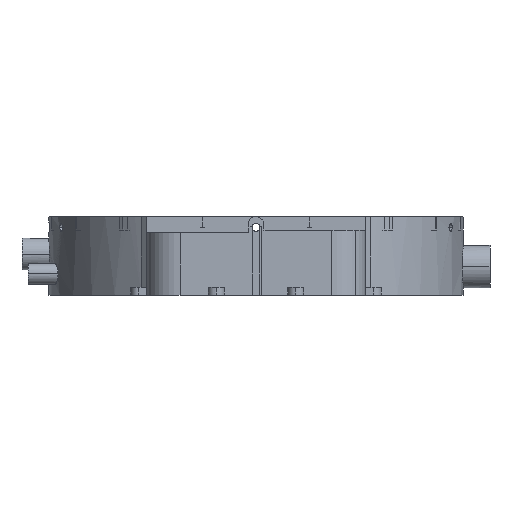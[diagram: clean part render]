
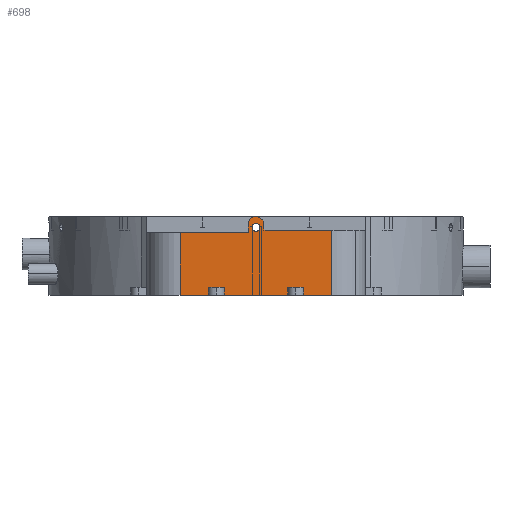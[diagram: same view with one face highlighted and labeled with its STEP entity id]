
A CAD part, left-side view. The second image highlights one B-rep face of the part: STEP entity #698.
In plain terms, the highlighted planar face has unit normal (-1, 0, 0).
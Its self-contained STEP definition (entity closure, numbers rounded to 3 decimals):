
#698=ADVANCED_FACE('',(#2062,#2063),#2064,.T.);
#2062=FACE_BOUND('',#4261,.T.);
#2063=FACE_OUTER_BOUND('',#4262,.T.);
#2064=PLANE('',#4263);
#4261=EDGE_LOOP('',(#6454,#6455));
#4262=EDGE_LOOP('',(#6456,#6457,#6458,#6459,#6460,#6461,#6462,#6463,#6464,#6465,#6466,#6467,#6468,#6469,#6470,#6471,#6472));
#4263=AXIS2_PLACEMENT_3D('',#6473,#6474,#6475);
#6454=ORIENTED_EDGE('',*,*,#13221,.T.);
#6455=ORIENTED_EDGE('',*,*,#13222,.T.);
#6456=ORIENTED_EDGE('',*,*,#13223,.F.);
#6457=ORIENTED_EDGE('',*,*,#13224,.T.);
#6458=ORIENTED_EDGE('',*,*,#13225,.T.);
#6459=ORIENTED_EDGE('',*,*,#13226,.F.);
#6460=ORIENTED_EDGE('',*,*,#13227,.T.);
#6461=ORIENTED_EDGE('',*,*,#13228,.T.);
#6462=ORIENTED_EDGE('',*,*,#13229,.F.);
#6463=ORIENTED_EDGE('',*,*,#13230,.F.);
#6464=ORIENTED_EDGE('',*,*,#13231,.T.);
#6465=ORIENTED_EDGE('',*,*,#13232,.T.);
#6466=ORIENTED_EDGE('',*,*,#13233,.T.);
#6467=ORIENTED_EDGE('',*,*,#13234,.F.);
#6468=ORIENTED_EDGE('',*,*,#13235,.T.);
#6469=ORIENTED_EDGE('',*,*,#13236,.T.);
#6470=ORIENTED_EDGE('',*,*,#13237,.T.);
#6471=ORIENTED_EDGE('',*,*,#13238,.T.);
#6472=ORIENTED_EDGE('',*,*,#13239,.F.);
#6473=CARTESIAN_POINT('',(-162.0,0.,0.));
#6474=DIRECTION('',(-1.0,0.,0.));
#6475=DIRECTION('',(0.,-1.0,0.));
#13221=EDGE_CURVE('',#15932,#15933,#15934,.T.);
#13222=EDGE_CURVE('',#15933,#15932,#15935,.T.);
#13223=EDGE_CURVE('',#15936,#15937,#15938,.T.);
#13224=EDGE_CURVE('',#15936,#15939,#15940,.T.);
#13225=EDGE_CURVE('',#15939,#15941,#15942,.T.);
#13226=EDGE_CURVE('',#15943,#15941,#15944,.T.);
#13227=EDGE_CURVE('',#15943,#15945,#15946,.T.);
#13228=EDGE_CURVE('',#15945,#15947,#15948,.T.);
#13229=EDGE_CURVE('',#15949,#15947,#15950,.T.);
#13230=EDGE_CURVE('',#15951,#15949,#15952,.T.);
#13231=EDGE_CURVE('',#15951,#15953,#15954,.T.);
#13232=EDGE_CURVE('',#15953,#15955,#15956,.T.);
#13233=EDGE_CURVE('',#15955,#15957,#15958,.T.);
#13234=EDGE_CURVE('',#15959,#15957,#15960,.T.);
#13235=EDGE_CURVE('',#15959,#15961,#15962,.T.);
#13236=EDGE_CURVE('',#15961,#15963,#15964,.T.);
#13237=EDGE_CURVE('',#15963,#15965,#15966,.T.);
#13238=EDGE_CURVE('',#15965,#15967,#15968,.T.);
#13239=EDGE_CURVE('',#15937,#15967,#15969,.T.);
#15932=VERTEX_POINT('',#19963);
#15933=VERTEX_POINT('',#19964);
#15934=CIRCLE('',#19965,1.5);
#15935=CIRCLE('',#19966,1.5);
#15936=VERTEX_POINT('',#19967);
#15937=VERTEX_POINT('',#19968);
#15938=CIRCLE('',#19969,3.0);
#15939=VERTEX_POINT('',#19970);
#15940=LINE('',#19971,#19972);
#15941=VERTEX_POINT('',#19973);
#15942=LINE('',#19974,#19975);
#15943=VERTEX_POINT('',#19976);
#15944=LINE('',#19977,#19978);
#15945=VERTEX_POINT('',#19979);
#15946=LINE('',#19980,#19981);
#15947=VERTEX_POINT('',#19982);
#15948=LINE('',#19983,#19984);
#15949=VERTEX_POINT('',#19985);
#15950=LINE('',#19986,#19987);
#15951=VERTEX_POINT('',#19988);
#15952=LINE('',#19989,#19990);
#15953=VERTEX_POINT('',#19991);
#15954=LINE('',#19992,#19993);
#15955=VERTEX_POINT('',#19994);
#15956=LINE('',#19995,#19996);
#15957=VERTEX_POINT('',#19997);
#15958=LINE('',#19998,#19999);
#15959=VERTEX_POINT('',#20000);
#15960=LINE('',#20001,#20002);
#15961=VERTEX_POINT('',#20003);
#15962=LINE('',#20004,#20005);
#15963=VERTEX_POINT('',#20006);
#15964=LINE('',#20007,#20008);
#15965=VERTEX_POINT('',#20009);
#15966=LINE('',#20010,#20011);
#15967=VERTEX_POINT('',#20012);
#15968=LINE('',#20013,#20014);
#15969=CIRCLE('',#20015,3.0);
#19963=CARTESIAN_POINT('',(-162.0,0.,27.0));
#19964=CARTESIAN_POINT('',(-162.0,0.,24.0));
#19965=AXIS2_PLACEMENT_3D('',#26674,#26675,#26676);
#19966=AXIS2_PLACEMENT_3D('',#26677,#26678,#26679);
#19967=CARTESIAN_POINT('',(-162.0,3.,26.5));
#19968=CARTESIAN_POINT('',(-162.0,-2.121,28.621));
#19969=AXIS2_PLACEMENT_3D('',#26680,#26681,#26682);
#19970=CARTESIAN_POINT('',(-162.0,3.,23.5));
#19971=CARTESIAN_POINT('',(-162.0,3.,11.75));
#19972=VECTOR('',#26683,1.0);
#19973=CARTESIAN_POINT('',(-162.0,28.5,23.5));
#19974=CARTESIAN_POINT('',(-162.0,17.602,23.5));
#19975=VECTOR('',#26684,1.0);
#19976=CARTESIAN_POINT('',(-162.0,28.5,0.));
#19977=CARTESIAN_POINT('',(-162.0,28.5,0.));
#19978=VECTOR('',#26685,1.0);
#19979=CARTESIAN_POINT('',(-162.0,18.0,0.));
#19980=CARTESIAN_POINT('',(-162.0,28.5,0.));
#19981=VECTOR('',#26686,1.0);
#19982=CARTESIAN_POINT('',(-162.0,18.0,3.));
#19983=CARTESIAN_POINT('',(-162.0,18.0,0.));
#19984=VECTOR('',#26687,1.0);
#19985=CARTESIAN_POINT('',(-162.0,12.,3.));
#19986=CARTESIAN_POINT('',(-162.0,18.0,3.));
#19987=VECTOR('',#26688,1.0);
#19988=CARTESIAN_POINT('',(-162.0,12.,0.));
#19989=CARTESIAN_POINT('',(-162.0,12.,0.));
#19990=VECTOR('',#26689,1.0);
#19991=CARTESIAN_POINT('',(-162.0,-12.0,0.));
#19992=CARTESIAN_POINT('',(-162.0,28.5,0.));
#19993=VECTOR('',#26690,1.0);
#19994=CARTESIAN_POINT('',(-162.0,-12.0,3.));
#19995=CARTESIAN_POINT('',(-162.0,-12.0,0.));
#19996=VECTOR('',#26691,1.0);
#19997=CARTESIAN_POINT('',(-162.0,-18.,3.));
#19998=CARTESIAN_POINT('',(-162.0,-18.,3.));
#19999=VECTOR('',#26692,1.0);
#20000=CARTESIAN_POINT('',(-162.0,-18.,0.));
#20001=CARTESIAN_POINT('',(-162.0,-18.,0.));
#20002=VECTOR('',#26693,1.0);
#20003=CARTESIAN_POINT('',(-162.0,-28.5,0.));
#20004=CARTESIAN_POINT('',(-162.0,28.5,0.));
#20005=VECTOR('',#26694,1.0);
#20006=CARTESIAN_POINT('',(-162.0,-28.5,24.5));
#20007=CARTESIAN_POINT('',(-162.0,-28.5,0.));
#20008=VECTOR('',#26695,1.0);
#20009=CARTESIAN_POINT('',(-162.0,-3.,24.5));
#20010=CARTESIAN_POINT('',(-162.0,-17.602,24.5));
#20011=VECTOR('',#26696,1.0);
#20012=CARTESIAN_POINT('',(-162.0,-3.,26.5));
#20013=CARTESIAN_POINT('',(-162.0,-3.,12.25));
#20014=VECTOR('',#26697,1.0);
#20015=AXIS2_PLACEMENT_3D('',#26698,#26699,#26700);
#26674=CARTESIAN_POINT('',(-162.0,0.,25.5));
#26675=DIRECTION('',(1.0,0.,0.));
#26676=DIRECTION('',(0.,0.,-1.0));
#26677=CARTESIAN_POINT('',(-162.0,0.,25.5));
#26678=DIRECTION('',(1.0,0.,0.));
#26679=DIRECTION('',(0.,0.,-1.0));
#26680=CARTESIAN_POINT('',(-162.0,0.,26.5));
#26681=DIRECTION('',(1.0,0.,0.));
#26682=DIRECTION('',(0.,0.707,0.707));
#26683=DIRECTION('',(0.,0.,-1.0));
#26684=DIRECTION('',(0.,1.0,0.));
#26685=DIRECTION('',(0.,0.,1.0));
#26686=DIRECTION('',(0.,-1.0,0.));
#26687=DIRECTION('',(0.,0.,1.0));
#26688=DIRECTION('',(0.,1.0,0.));
#26689=DIRECTION('',(0.,0.,1.0));
#26690=DIRECTION('',(0.,-1.0,0.));
#26691=DIRECTION('',(0.0,0.0,1.0));
#26692=DIRECTION('',(0.,-1.0,0.0));
#26693=DIRECTION('',(0.0,0.0,1.0));
#26694=DIRECTION('',(0.,-1.0,0.));
#26695=DIRECTION('',(0.,0.,1.0));
#26696=DIRECTION('',(0.,1.0,0.));
#26697=DIRECTION('',(0.,0.,1.0));
#26698=CARTESIAN_POINT('',(-162.0,0.,26.5));
#26699=DIRECTION('',(1.0,0.,0.));
#26700=DIRECTION('',(0.,0.707,0.707));
